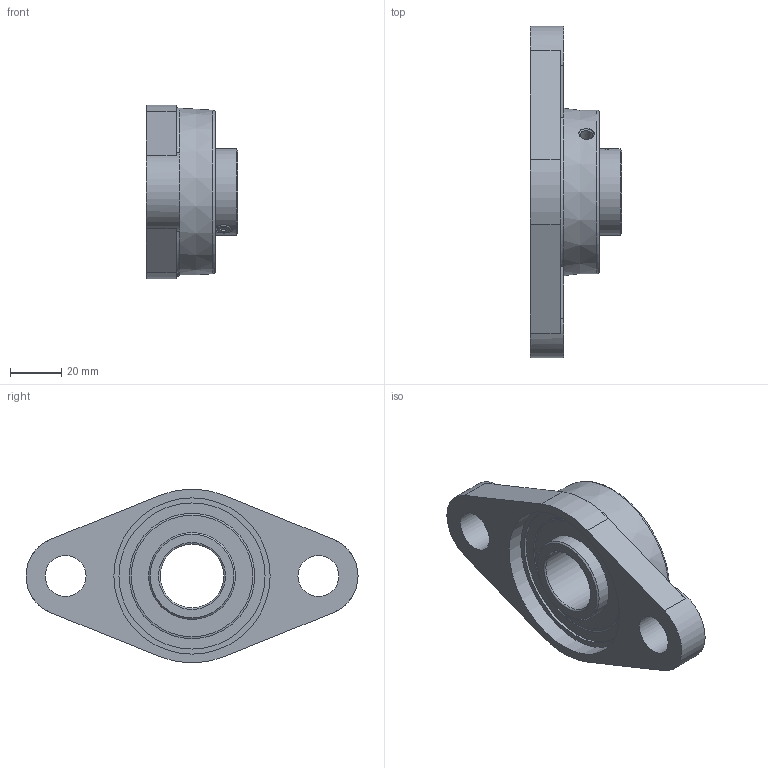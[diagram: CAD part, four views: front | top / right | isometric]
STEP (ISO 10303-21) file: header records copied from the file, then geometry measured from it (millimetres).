
FILE_DESCRIPTION (( 'STEP AP203' ), '1' );
FILE_NAME ('UCFL-205.STEP', '2019-03-08T12:13:19', ( '' ), ( '' ), 'SwSTEP 2.0', 'SolidWorks 2017', '' );
FILE_SCHEMA (( 'CONFIG_CONTROL_DESIGN' ));
Length unit declared in the file: millimetre
Products named in the file (1): UCFL-205
Bounding box: 35.7 x 130 x 67.8 mm (x, y, z)
Volume: 81069.3 mm3; surface area: 30488.3 mm2
Topology: 1 solids, 3 shells, 93 faces, 210 edges, 141 vertices
Faces by surface type: plane 43, cylinder 24, cone 10, torus 9, sphere 7
Full cylindrical faces by diameter (mm): 0.85 x4, 4.918 x1, 6 x3, 16 x2, 25 x1, 34 x4, 46.021 x2, 57.2 x1, 60 x1, 61.2 x1
Entity records: 2849 total; most frequent: CARTESIAN_POINT 926, DIRECTION 384, ORIENTED_EDGE 304, AXIS2_PLACEMENT_3D 160, EDGE_LOOP 158, EDGE_CURVE 152, FACE_OUTER_BOUND 120, VERTEX_POINT 120
